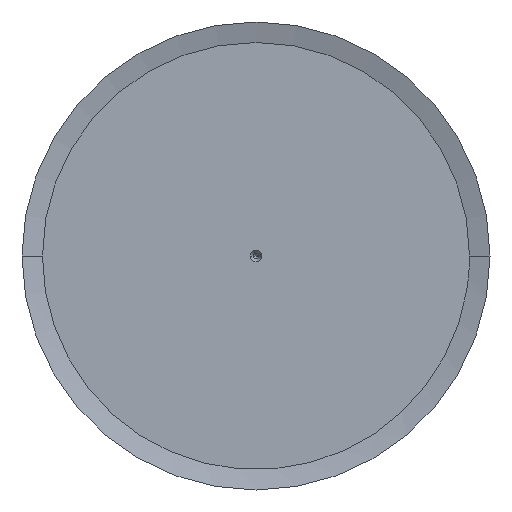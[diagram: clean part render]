
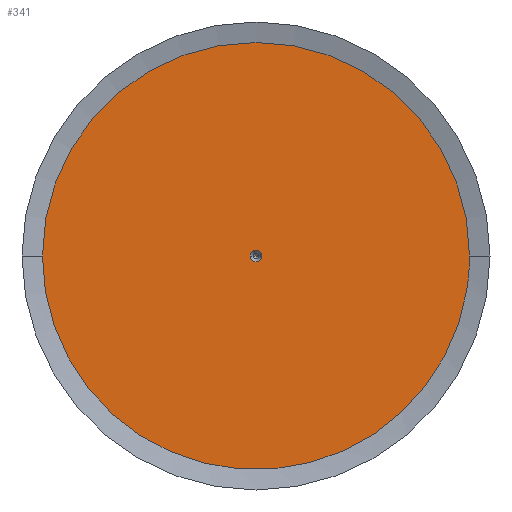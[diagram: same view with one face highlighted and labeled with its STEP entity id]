
A CAD part, left-side view. The second image highlights one B-rep face of the part: STEP entity #341.
In plain terms, the highlighted planar face has unit normal (-1, 0, 0).
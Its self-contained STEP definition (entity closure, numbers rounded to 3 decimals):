
#341=ADVANCED_FACE('',(#879,#880),#881,.T.);
#879=FACE_BOUND('',#1420,.T.);
#880=FACE_OUTER_BOUND('',#1421,.T.);
#881=PLANE('',#1422);
#1420=EDGE_LOOP('',(#3770,#3771));
#1421=EDGE_LOOP('',(#3772,#3773,#3774));
#1422=AXIS2_PLACEMENT_3D('',#3775,#3776,#3777);
#3770=ORIENTED_EDGE('',*,*,#4039,.T.);
#3771=ORIENTED_EDGE('',*,*,#4052,.T.);
#3772=ORIENTED_EDGE('',*,*,#3906,.T.);
#3773=ORIENTED_EDGE('',*,*,#4404,.T.);
#3774=ORIENTED_EDGE('',*,*,#3907,.T.);
#3775=CARTESIAN_POINT('',(0.0,0.0,0.0));
#3776=DIRECTION('',(-1.0,0.0,0.0));
#3777=DIRECTION('',(0.0,0.0,1.0));
#3906=EDGE_CURVE('',#4796,#4794,#4797,.T.);
#3907=EDGE_CURVE('',#4791,#4796,#4798,.T.);
#4039=EDGE_CURVE('',#5051,#5053,#5055,.T.);
#4052=EDGE_CURVE('',#5053,#5051,#5075,.T.);
#4404=EDGE_CURVE('',#4794,#4791,#5634,.T.);
#4791=VERTEX_POINT('',#6499);
#4794=VERTEX_POINT('',#6503);
#4796=VERTEX_POINT('',#6506);
#4797=CIRCLE('',#6507,73.0);
#4798=CIRCLE('',#6508,73.0);
#5051=VERTEX_POINT('',#7183);
#5053=VERTEX_POINT('',#7186);
#5055=CIRCLE('',#7189,2.0);
#5075=CIRCLE('',#7215,2.0);
#5634=CIRCLE('',#8277,73.0);
#6499=CARTESIAN_POINT('',(0.0,73.0,0.));
#6503=CARTESIAN_POINT('',(0.0,-73.0,0.));
#6506=CARTESIAN_POINT('',(0.0,-72.13,-11.237));
#6507=AXIS2_PLACEMENT_3D('',#9116,#9117,#9118);
#6508=AXIS2_PLACEMENT_3D('',#9119,#9120,#9121);
#7183=CARTESIAN_POINT('',(0.0,2.0,0.0));
#7186=CARTESIAN_POINT('',(0.0,-2.0,0.));
#7189=AXIS2_PLACEMENT_3D('',#9279,#9280,#9281);
#7215=AXIS2_PLACEMENT_3D('',#9306,#9307,#9308);
#8277=AXIS2_PLACEMENT_3D('',#9983,#9984,#9985);
#9116=CARTESIAN_POINT('',(0.0,0.0,0.0));
#9117=DIRECTION('',(-1.0,0.0,0.0));
#9118=DIRECTION('',(0.0,1.0,0.0));
#9119=CARTESIAN_POINT('',(0.0,0.0,0.0));
#9120=DIRECTION('',(-1.0,0.0,0.0));
#9121=DIRECTION('',(0.0,1.0,0.0));
#9279=CARTESIAN_POINT('',(0.0,0.0,0.0));
#9280=DIRECTION('',(1.0,0.0,0.0));
#9281=DIRECTION('',(0.0,1.0,0.0));
#9306=CARTESIAN_POINT('',(0.0,0.0,0.0));
#9307=DIRECTION('',(1.0,0.0,0.0));
#9308=DIRECTION('',(0.0,1.0,0.0));
#9983=CARTESIAN_POINT('',(0.0,0.0,0.0));
#9984=DIRECTION('',(-1.0,0.0,0.0));
#9985=DIRECTION('',(0.0,1.0,0.0));
